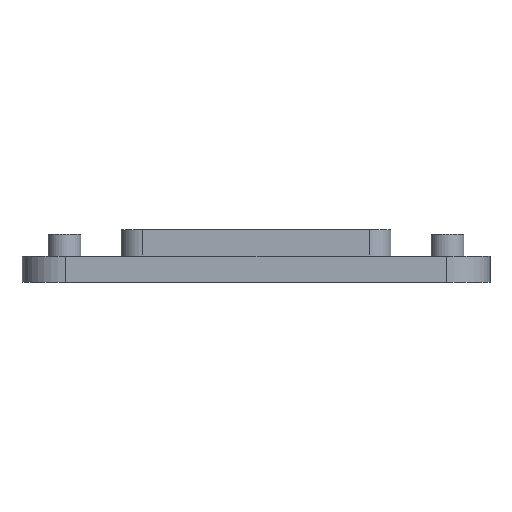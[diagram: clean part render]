
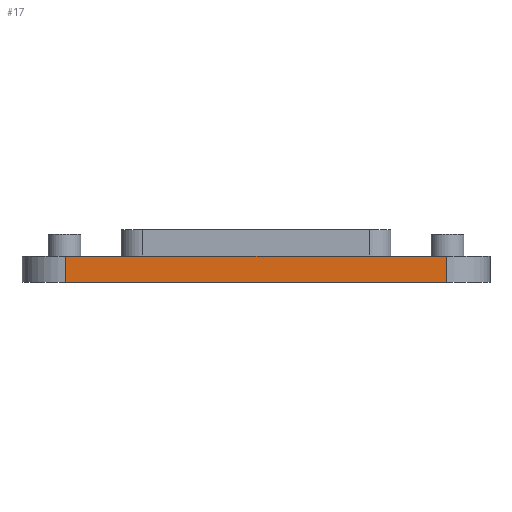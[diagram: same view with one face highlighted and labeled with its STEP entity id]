
A CAD part, left-side view. The second image highlights one B-rep face of the part: STEP entity #17.
In plain terms, the highlighted planar face has unit normal (-1, 0, 0).
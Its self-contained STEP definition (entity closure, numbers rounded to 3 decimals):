
#17 = ADVANCED_FACE('',(#18),#32,.F.);
#18 = FACE_BOUND('',#19,.F.);
#19 = EDGE_LOOP('',(#20,#55,#83,#111));
#20 = ORIENTED_EDGE('',*,*,#21,.F.);
#21 = EDGE_CURVE('',#22,#24,#26,.T.);
#22 = VERTEX_POINT('',#23);
#23 = CARTESIAN_POINT('',(-10.75,-55.25,2.3));
#24 = VERTEX_POINT('',#25);
#25 = CARTESIAN_POINT('',(-10.75,-37.75,2.3));
#26 = SURFACE_CURVE('',#27,(#31,#43),.PCURVE_S1.);
#27 = LINE('',#28,#29);
#28 = CARTESIAN_POINT('',(-10.75,-57.25,2.3));
#29 = VECTOR('',#30,1.);
#30 = DIRECTION('',(0.,1.,0.));
#31 = PCURVE('',#32,#37);
#32 = PLANE('',#33);
#33 = AXIS2_PLACEMENT_3D('',#34,#35,#36);
#34 = CARTESIAN_POINT('',(-10.75,-57.25,1.1));
#35 = DIRECTION('',(1.,0.,0.));
#36 = DIRECTION('',(0.,0.,1.));
#37 = DEFINITIONAL_REPRESENTATION('',(#38),#42);
#38 = LINE('',#39,#40);
#39 = CARTESIAN_POINT('',(1.2,0.));
#40 = VECTOR('',#41,1.);
#41 = DIRECTION('',(0.,-1.));
#42 = ( GEOMETRIC_REPRESENTATION_CONTEXT(2) 
PARAMETRIC_REPRESENTATION_CONTEXT() REPRESENTATION_CONTEXT('2D SPACE',''
  ) );
#43 = PCURVE('',#44,#49);
#44 = PLANE('',#45);
#45 = AXIS2_PLACEMENT_3D('',#46,#47,#48);
#46 = CARTESIAN_POINT('',(-10.75,-57.25,2.3));
#47 = DIRECTION('',(0.,0.,1.));
#48 = DIRECTION('',(1.,0.,-0.));
#49 = DEFINITIONAL_REPRESENTATION('',(#50),#54);
#50 = LINE('',#51,#52);
#51 = CARTESIAN_POINT('',(0.,0.));
#52 = VECTOR('',#53,1.);
#53 = DIRECTION('',(0.,1.));
#54 = ( GEOMETRIC_REPRESENTATION_CONTEXT(2) 
PARAMETRIC_REPRESENTATION_CONTEXT() REPRESENTATION_CONTEXT('2D SPACE',''
  ) );
#55 = ORIENTED_EDGE('',*,*,#56,.F.);
#56 = EDGE_CURVE('',#57,#22,#59,.T.);
#57 = VERTEX_POINT('',#58);
#58 = CARTESIAN_POINT('',(-10.75,-55.25,1.1));
#59 = SURFACE_CURVE('',#60,(#64,#71),.PCURVE_S1.);
#60 = LINE('',#61,#62);
#61 = CARTESIAN_POINT('',(-10.75,-55.25,1.1));
#62 = VECTOR('',#63,1.);
#63 = DIRECTION('',(0.,0.,1.));
#64 = PCURVE('',#32,#65);
#65 = DEFINITIONAL_REPRESENTATION('',(#66),#70);
#66 = LINE('',#67,#68);
#67 = CARTESIAN_POINT('',(0.,-2.));
#68 = VECTOR('',#69,1.);
#69 = DIRECTION('',(1.,0.));
#70 = ( GEOMETRIC_REPRESENTATION_CONTEXT(2) 
PARAMETRIC_REPRESENTATION_CONTEXT() REPRESENTATION_CONTEXT('2D SPACE',''
  ) );
#71 = PCURVE('',#72,#77);
#72 = CYLINDRICAL_SURFACE('',#73,2.);
#73 = AXIS2_PLACEMENT_3D('',#74,#75,#76);
#74 = CARTESIAN_POINT('',(-8.75,-55.25,1.1));
#75 = DIRECTION('',(0.,0.,1.));
#76 = DIRECTION('',(-1.,-0.,0.));
#77 = DEFINITIONAL_REPRESENTATION('',(#78),#82);
#78 = LINE('',#79,#80);
#79 = CARTESIAN_POINT('',(0.,0.));
#80 = VECTOR('',#81,1.);
#81 = DIRECTION('',(0.,1.));
#82 = ( GEOMETRIC_REPRESENTATION_CONTEXT(2) 
PARAMETRIC_REPRESENTATION_CONTEXT() REPRESENTATION_CONTEXT('2D SPACE',''
  ) );
#83 = ORIENTED_EDGE('',*,*,#84,.T.);
#84 = EDGE_CURVE('',#57,#85,#87,.T.);
#85 = VERTEX_POINT('',#86);
#86 = CARTESIAN_POINT('',(-10.75,-37.75,1.1));
#87 = SURFACE_CURVE('',#88,(#92,#99),.PCURVE_S1.);
#88 = LINE('',#89,#90);
#89 = CARTESIAN_POINT('',(-10.75,-57.25,1.1));
#90 = VECTOR('',#91,1.);
#91 = DIRECTION('',(0.,1.,0.));
#92 = PCURVE('',#32,#93);
#93 = DEFINITIONAL_REPRESENTATION('',(#94),#98);
#94 = LINE('',#95,#96);
#95 = CARTESIAN_POINT('',(0.,0.));
#96 = VECTOR('',#97,1.);
#97 = DIRECTION('',(0.,-1.));
#98 = ( GEOMETRIC_REPRESENTATION_CONTEXT(2) 
PARAMETRIC_REPRESENTATION_CONTEXT() REPRESENTATION_CONTEXT('2D SPACE',''
  ) );
#99 = PCURVE('',#100,#105);
#100 = PLANE('',#101);
#101 = AXIS2_PLACEMENT_3D('',#102,#103,#104);
#102 = CARTESIAN_POINT('',(-10.75,-57.25,1.1));
#103 = DIRECTION('',(0.,0.,1.));
#104 = DIRECTION('',(1.,0.,-0.));
#105 = DEFINITIONAL_REPRESENTATION('',(#106),#110);
#106 = LINE('',#107,#108);
#107 = CARTESIAN_POINT('',(0.,0.));
#108 = VECTOR('',#109,1.);
#109 = DIRECTION('',(0.,1.));
#110 = ( GEOMETRIC_REPRESENTATION_CONTEXT(2) 
PARAMETRIC_REPRESENTATION_CONTEXT() REPRESENTATION_CONTEXT('2D SPACE',''
  ) );
#111 = ORIENTED_EDGE('',*,*,#112,.T.);
#112 = EDGE_CURVE('',#85,#24,#113,.T.);
#113 = SURFACE_CURVE('',#114,(#118,#125),.PCURVE_S1.);
#114 = LINE('',#115,#116);
#115 = CARTESIAN_POINT('',(-10.75,-37.75,1.1));
#116 = VECTOR('',#117,1.);
#117 = DIRECTION('',(0.,0.,1.));
#118 = PCURVE('',#32,#119);
#119 = DEFINITIONAL_REPRESENTATION('',(#120),#124);
#120 = LINE('',#121,#122);
#121 = CARTESIAN_POINT('',(0.,-19.5));
#122 = VECTOR('',#123,1.);
#123 = DIRECTION('',(1.,0.));
#124 = ( GEOMETRIC_REPRESENTATION_CONTEXT(2) 
PARAMETRIC_REPRESENTATION_CONTEXT() REPRESENTATION_CONTEXT('2D SPACE',''
  ) );
#125 = PCURVE('',#126,#131);
#126 = CYLINDRICAL_SURFACE('',#127,2.);
#127 = AXIS2_PLACEMENT_3D('',#128,#129,#130);
#128 = CARTESIAN_POINT('',(-8.75,-37.75,1.1));
#129 = DIRECTION('',(0.,0.,1.));
#130 = DIRECTION('',(-1.,-0.,0.));
#131 = DEFINITIONAL_REPRESENTATION('',(#132),#136);
#132 = LINE('',#133,#134);
#133 = CARTESIAN_POINT('',(6.283,0.));
#134 = VECTOR('',#135,1.);
#135 = DIRECTION('',(-0.,1.));
#136 = ( GEOMETRIC_REPRESENTATION_CONTEXT(2) 
PARAMETRIC_REPRESENTATION_CONTEXT() REPRESENTATION_CONTEXT('2D SPACE',''
  ) );
